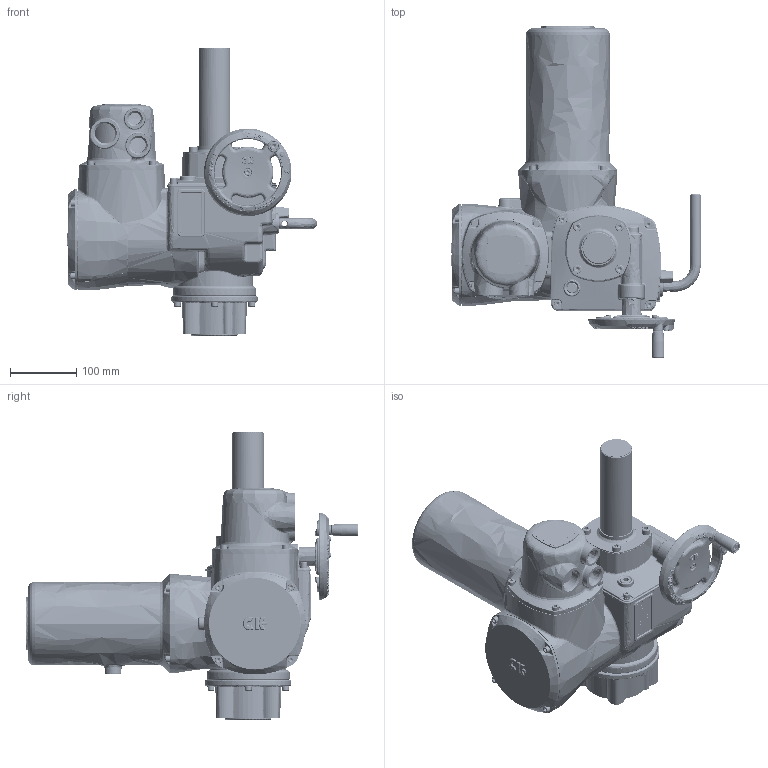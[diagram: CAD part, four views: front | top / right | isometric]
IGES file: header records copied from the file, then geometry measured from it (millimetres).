
Start section: C
Global section: file name: CK120 F10 THRUST BASE - LARGE MOTOR.igs; native system: By Siemens PLM Incorporated; preprocessor: XPlus GENERIC/IGES 19.0.9; author: Author; organization: Title; date: 20170823.184224; units: millimetre
Bounding box: 376.35 x 499.65 x 432.33 mm (x, y, z)
Surface area: 566402.4 mm2 (no closed solid volume)
Topology: 0 solids, 0 shells, 4988 faces, 28948 edges, 28718 vertices
Faces by surface type: bspline 4988
